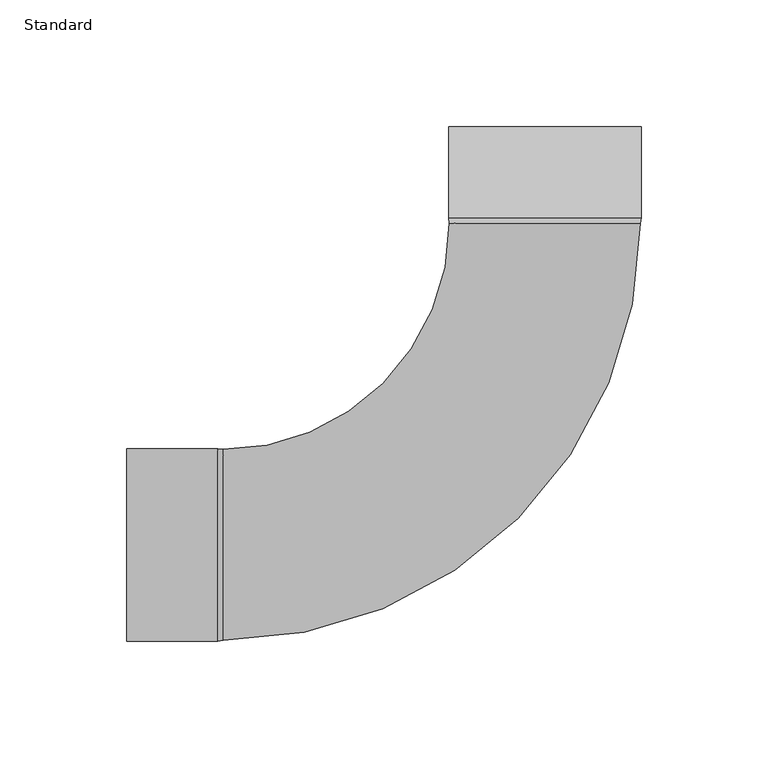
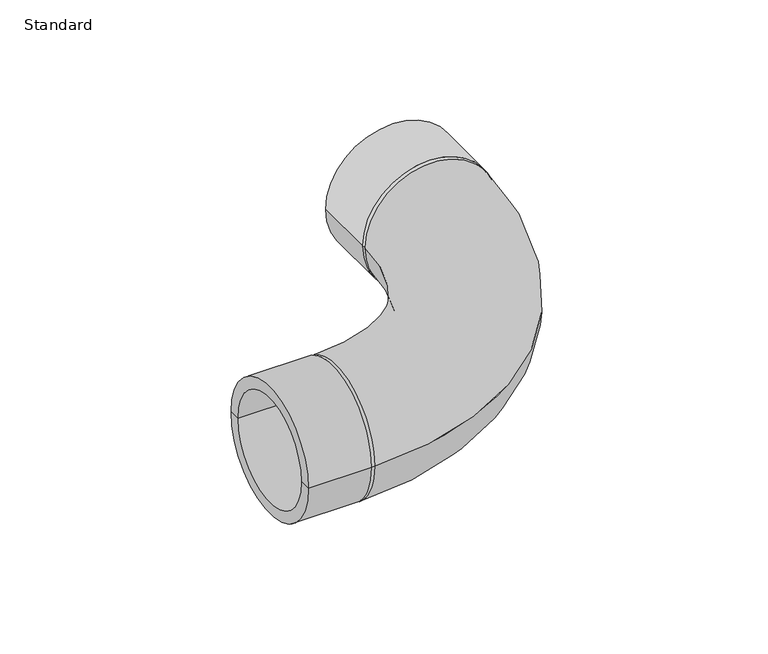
"""IFC4 building model written with IfcOpenShell, lengths in millimetres: pipe fitting geometry, Durapipe_PipeFitting_PVC_SR_Bend90deg : Standard."""

from ifc_helpers import new_model, si_unit, point, frame, origin, place, context, project, spatial, polyline, circle_curve, ellipse_curve, trimmed, source, transform, mapped, element, save
from ifc_brep_helpers import plane_surface, cylinder_surface, revolved_surface, advanced_brep


def standard_a8a5e359(model_context):
    return source(origin(), model_context, "Body", "AdvancedBrep", [
        advanced_brep(
        [(38.0, 129.0, 0.0), (-38.0, 129.0, 0.0), (-38.0, 165.0, 0.0), (38.0, 165.0, 0.0), (37.7, 127.0, 0.0), (-37.7, 127.0, 0.0), (-31.5, 165.0, 0.0), (31.5, 165.0, 0.0), (-127.0, 37.7, 0.0), (-127.0, -37.7, 0.0), (-165.0, -31.5, 0.0), (-165.0, 31.5, 0.0), (-165.0, 38.0, 0.0), (-165.0, -38.0, 0.0), (-129.0, -38.0, 0.0), (-129.0, 38.0, 0.0), (-129.0, -31.5, 0.0), (-129.0, 31.5, 0.0), (-129.0, 0.0, 0.0), (31.5, 129.0, 0.0), (-31.5, 129.0, 0.0), (0.0, 129.0, 0.0)],
        [
            (0, 1, circle_curve(frame((0.0, 129.0, 0.0), z_axis=(0.0, 1.0, 0.0), x_axis=(-1.0, 0.0, 0.0)), 38.0)),
            (1, 2),
            (2, 3, circle_curve(frame((0.0, 165.0, 0.0), z_axis=(0.0, -1.0, 0.0), x_axis=(-1.0, 0.0, 0.0)), 38.0)),
            (3, 0),
            (1, 0, circle_curve(frame((0.0, 129.0, 0.0), z_axis=(0.0, 1.0, 0.0), x_axis=(-1.0, 0.0, 0.0)), 38.0)),
            (3, 2, circle_curve(frame((0.0, 165.0, 0.0), z_axis=(0.0, -1.0, 0.0), x_axis=(-1.0, 0.0, 0.0)), 38.0)),
            (0, 4),
            (4, 5, circle_curve(frame((0.0, 127.0, 0.0), z_axis=(0.0, 1.0, 0.0), x_axis=(-1.0, 0.0, 0.0)), 37.7)),
            (5, 1),
            (5, 4, circle_curve(frame((0.0, 127.0, 0.0), z_axis=(0.0, 1.0, 0.0), x_axis=(-1.0, 0.0, 0.0)), 37.7)),
            (2, 6),
            (6, 7, circle_curve(frame((0.0, 165.0, 0.0), z_axis=(0.0, -1.0, 0.0), x_axis=(-1.0, 0.0, 0.0)), 31.5)),
            (7, 3),
            (7, 6, circle_curve(frame((0.0, 165.0, 0.0), z_axis=(0.0, -1.0, 0.0), x_axis=(-1.0, 0.0, 0.0)), 31.5)),
            (5, 8, circle_curve(frame((-127.0, 127.0, 0.0), z_axis=(0.0, 0.0, -1.0), x_axis=(0.0, -1.0, 0.0)), 89.3)),
            (8, 9, circle_curve(frame((-127.0, 0.0, 0.0), z_axis=(1.0, 0.0, 0.0), x_axis=(0.0, 1.0, 0.0)), 37.7)),
            (9, 4, circle_curve(frame((-127.0, 127.0, 0.0), z_axis=(0.0, 0.0, 1.0), x_axis=(0.0, -1.0, 0.0)), 164.7)),
            (9, 8, circle_curve(frame((-127.0, 0.0, 0.0), z_axis=(1.0, 0.0, 0.0), x_axis=(0.0, 1.0, 0.0)), 37.7)),
            (10, 11, circle_curve(frame((-165.0, 0.0, 0.0), z_axis=(1.0, 0.0, 0.0), x_axis=(0.0, 1.0, 0.0)), 31.5)),
            (11, 12),
            (12, 13, circle_curve(frame((-165.0, 0.0, 0.0), z_axis=(-1.0, 0.0, 0.0), x_axis=(0.0, 1.0, 0.0)), 38.0)),
            (13, 10),
            (11, 10, circle_curve(frame((-165.0, 0.0, 0.0), z_axis=(1.0, 0.0, 0.0), x_axis=(0.0, 1.0, 0.0)), 31.5)),
            (13, 12, circle_curve(frame((-165.0, 0.0, 0.0), z_axis=(-1.0, 0.0, 0.0), x_axis=(0.0, 1.0, 0.0)), 38.0)),
            (14, 15, circle_curve(frame((-129.0, 0.0, 0.0), z_axis=(1.0, 0.0, 0.0), x_axis=(0.0, 1.0, 0.0)), 38.0)),
            (15, 8),
            (9, 14),
            (15, 14, circle_curve(frame((-129.0, 0.0, 0.0), z_axis=(1.0, 0.0, 0.0), x_axis=(0.0, 1.0, 0.0)), 38.0)),
            (12, 15),
            (14, 13),
            (10, 16),
            (16, 17, circle_curve(frame((-129.0, 0.0, 0.0), z_axis=(1.0, 0.0, 0.0), x_axis=(0.0, 1.0, 0.0)), 31.5)),
            (17, 11),
            (17, 16, circle_curve(frame((-129.0, 0.0, 0.0), z_axis=(1.0, 0.0, 0.0), x_axis=(0.0, 1.0, 0.0)), 31.5)),
            (16, 18),
            (18, 17),
            (19, 20, circle_curve(frame((0.0, 129.0, 0.0), z_axis=(0.0, 1.0, 0.0), x_axis=(-1.0, 0.0, 0.0)), 31.5)),
            (20, 21),
            (21, 19),
            (20, 19, circle_curve(frame((0.0, 129.0, 0.0), z_axis=(0.0, 1.0, 0.0), x_axis=(-1.0, 0.0, 0.0)), 31.5)),
            (6, 20),
            (19, 7),
        ],
        [
            cylinder_surface(frame((0.0, 2108.0, 0.0), z_axis=(0.0, -1.0, 0.0), x_axis=(-1.0, 0.0, 0.0)), 38.0),
            revolved_surface(polyline([(-38.0, 129.0, 0.0), (-37.7, 127.0, 0.0)]), (0.0, 2108.0, 0.0), (0.0, -1.0, 0.0)),
            plane_surface(frame((0.0, 165.0, 0.0), z_axis=(0.0, 1.0, 0.0), x_axis=(-1.0, 0.0, 0.0))),
            revolved_surface(trimmed(ellipse_curve(frame((-127.0, 0.0, 0.0), z_axis=(-1.0, 0.0, 0.0), x_axis=(0.0, 1.0, 0.0)), 37.7, 37.7), [point((-127.0, -37.7, 0.0))], [point((-127.0, 37.7, 0.0))], True, "CARTESIAN"), (-127.0, 127.0, 0.0), (0.0, 0.0, 1.0)),
            revolved_surface(trimmed(ellipse_curve(frame((-127.0, 0.0, 0.0), z_axis=(-1.0, 0.0, 0.0), x_axis=(0.0, 1.0, 0.0)), 37.7, 37.7), [point((-127.0, 37.7, 0.0))], [point((-127.0, -37.7, 0.0))], True, "CARTESIAN"), (-127.0, 127.0, 0.0), (0.0, 0.0, 1.0)),
            plane_surface(frame((-165.0, 0.0, 0.0), z_axis=(-1.0, 0.0, 0.0), x_axis=(0.0, 1.0, 0.0))),
            revolved_surface(polyline([(-127.0, 37.7, 0.0), (-129.0, 38.0, 0.0)]), (2025.0, 0.0, 0.0), (-1.0, 0.0, 0.0)),
            cylinder_surface(frame((2025.0, 0.0, 0.0), z_axis=(-1.0, 0.0, 0.0), x_axis=(0.0, 1.0, 0.0)), 38.0),
            revolved_surface(polyline([(-165.0, 31.5, 0.0), (-129.0, 31.5, 0.0)]), (2025.0, 0.0, 0.0), (-1.0, 0.0, 0.0)),
            plane_surface(frame((-129.0, 0.0, 0.0), z_axis=(-1.0, 0.0, 0.0), x_axis=(0.0, 1.0, 0.0))),
            plane_surface(frame((0.0, 129.0, 0.0), z_axis=(0.0, 1.0, 0.0), x_axis=(-1.0, 0.0, 0.0))),
            revolved_surface(polyline([(-31.5, 129.0, 0.0), (-31.5, 165.0, 0.0)]), (0.0, 2108.0, 0.0), (0.0, -1.0, 0.0)),
        ],
        [
            (0, [[1, 2, 3, 4]]),
            (0, [[-2, 5, -4, 6]]),
            (1, [[-1, 7, 8, 9]]),
            (1, [[-5, -9, 10, -7]]),
            (2, [[-3, 11, 12, 13]]),
            (2, [[-6, -13, 14, -11]]),
            (3, [[15, 16, 17, -10]]),
            (4, [[-15, -8, -17, 18]]),
            (5, [[19, 20, 21, 22]]),
            (5, [[-20, 23, -22, 24]]),
            (6, [[25, 26, -18, 27]]),
            (6, [[-26, 28, -27, -16]]),
            (7, [[-21, 29, -25, 30]]),
            (7, [[-24, -30, -28, -29]]),
            (8, [[-19, 31, 32, 33]]),
            (8, [[-23, -33, 34, -31]]),
            (9, [[-32, 35, 36]]),
            (9, [[-34, -36, -35]]),
            (10, [[37, 38, 39]]),
            (10, [[-38, 40, -39]]),
            (11, [[-12, 41, -37, 42]]),
            (11, [[-14, -42, -40, -41]]),
        ],
    ),
    ])


if __name__ == "__main__":
    model = new_model("IFC4")
    model_context = context("Model", 3, world=origin())
    ifc_project = project(units=[si_unit("LENGTHUNIT", "METRE", prefix="MILLI")], contexts=[model_context])
    site = spatial("IfcSite", under=ifc_project)
    building = spatial("IfcBuilding", under=site)
    placement = place(None, origin())
    standard_shape = standard_a8a5e359(model_context)
    element("IfcPipeFitting", 1, ObjectType="Durapipe_PipeFitting_PVC_SR_Bend90deg : Standard", at=placement, inside=building, context=model_context, shape_type="MappedRepresentation", body=[
        mapped(standard_shape, transform((0.0, 0.0, 0.0), x_axis=(1.0, 0.0, 0.0), y_axis=(0.0, 1.0, 0.0), z_axis=(0.0, 0.0, 1.0))),
    ])
    save(model, "model.ifc")
